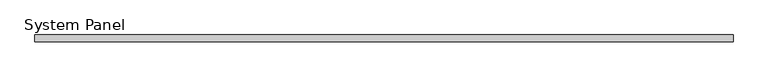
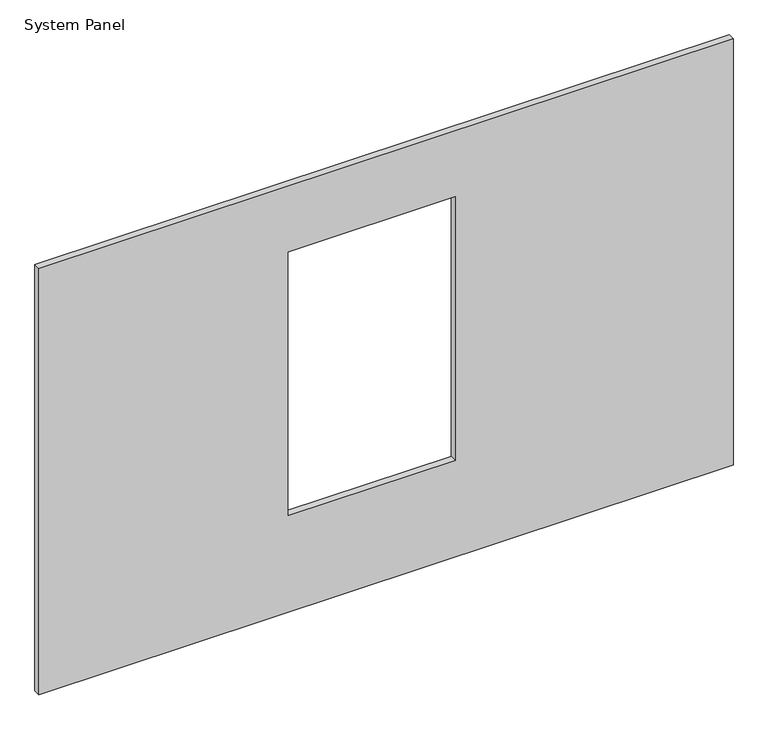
"""IFC4 building model written with IfcOpenShell, lengths in millimetres: plate geometry."""

from ifc_helpers import new_model, si_unit, frame, origin, place, context, project, spatial, polyline, outline, extrude, source, transform, mapped, element, save


def system_panel_f71eefa9(model_context):
    return source(origin(), model_context, "Body", "SweptSolid", [
        extrude(outline(polyline([(0.0, -1897.0625), (0.0, 1897.0625), (2463.8, 1897.0625), (2463.8, -1897.0625), (0.0, -1897.0625)]), holes=[polyline([(558.8, 379.4125), (558.8, -534.9875), (2082.8, -534.9875), (2082.8, 379.4125), (558.8, 379.4125)])]), frame((0.0, -19.05, 0.0), z_axis=(0.0, 1.0, 0.0), x_axis=(0.0, 0.0, 1.0)), (0.0, 0.0, 1.0), 38.1),
    ])


if __name__ == "__main__":
    model = new_model("IFC4")
    model_context = context("Model", 3, world=origin())
    ifc_project = project(units=[si_unit("LENGTHUNIT", "METRE", prefix="MILLI")], contexts=[model_context])
    site = spatial("IfcSite", under=ifc_project)
    building = spatial("IfcBuilding", under=site)
    placement = place(None, origin())
    system_panel_shape = system_panel_f71eefa9(model_context)
    element("IfcPlate", 1, ObjectType="System Panel : 1/2\" Plywood & 1\" Rigid Ins.", at=placement, inside=building, context=model_context, shape_type="MappedRepresentation", body=[
        mapped(system_panel_shape, transform((0.0, 0.0, 0.0), x_axis=(1.0, 0.0, 0.0), y_axis=(0.0, 1.0, 0.0), z_axis=(0.0, 0.0, 1.0))),
    ])
    save(model, "model.ifc")
